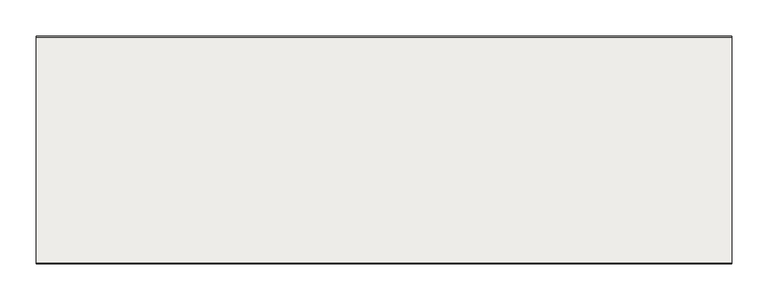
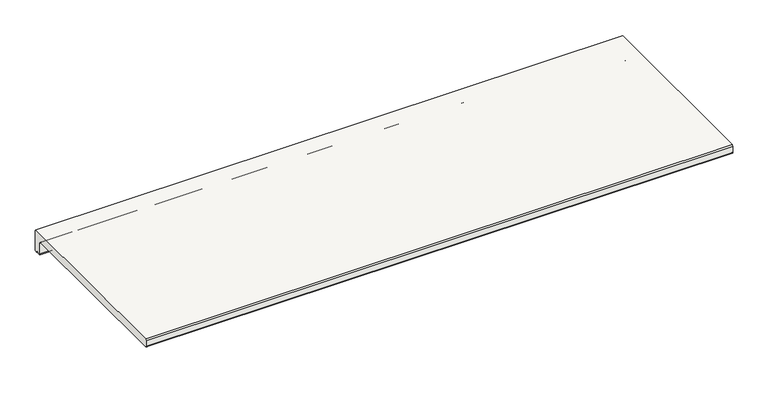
"""IFC4 building model written with IfcOpenShell, lengths in millimetres: slab geometry, ROSA GRES_L62 : Pieza L62_Tresor_Java_Anti-Slip."""

from ifc_helpers import new_model, si_unit, point, frame, frame_2d, origin, place, context, project, spatial, polyline, circle_curve, trimmed, segment, composite_curve, outline, extrude, source, transform, mapped, element, save


def slab_826b4f3d(model_context):
    return source(origin(), model_context, "Body", "SweptSolid", [
        extrude(outline(composite_curve([segment(trimmed(circle_curve(frame_2d((-12.1001991, -35.1001991)), 1.8998009), [point((-12.1001991, -37.0))], [point((-14.0, -35.1001991))], False, "CARTESIAN"), True, "CONTINUOUS"), segment(polyline([(-14.0, -35.1001991), (-14.0, -16.5836242)]), True, "CONTINUOUS"), segment(trimmed(circle_curve(frame_2d((-16.6422322, -16.5836242)), 2.6422322), [point((-14.0, -16.5836242))], [point((-16.6422322, -13.9413919))], True, "CARTESIAN"), True, "CONTINUOUS"), segment(polyline([(-16.6422322, -13.9413919), (-315.5234432, -13.9413919)]), True, "CONTINUOUS"), segment(trimmed(circle_curve(frame_2d((-315.5234432, -12.4648352)), 1.4765568), [point((-315.5234432, -13.9413919))], [point((-317.0, -12.4648352))], False, "CARTESIAN"), True, "CONTINUOUS"), segment(polyline([(-317.0, -12.4648352), (-317.0, -2.5), (-315.5, 0.0), (-2.5, 0.0), (0.0, -2.5), (0.0, -34.5)]), True, "CONTINUOUS"), segment(trimmed(circle_curve(frame_2d((-2.5, -34.5)), 2.5), [point((0.0, -34.5))], [point((-2.5, -37.0))], False, "CARTESIAN"), True, "CONTINUOUS"), segment(polyline([(-2.5, -37.0), (-5.422949, -37.0)]), True, "CONTINUOUS"), segment(trimmed(circle_curve(frame_2d((-7.4142134, -37.0)), 1.9912643), [point((-5.422949, -37.0))], [point((-9.4054777, -37.0))], True, "CARTESIAN"), True, "CONTINUOUS"), segment(polyline([(-9.4054777, -37.0), (-12.1001991, -37.0)]), True, "CONTINUOUS")], self_intersect=False)), frame((0.0, 0.0, 0.0), z_axis=(1.0, 0.0, 0.0), x_axis=(0.0, 1.0, 0.0)), (0.0, 0.0, 1.0), 966.0),
    ])


if __name__ == "__main__":
    model = new_model("IFC4")
    model_context = context("Model", 3, world=origin())
    ifc_project = project(units=[si_unit("LENGTHUNIT", "METRE", prefix="MILLI")], contexts=[model_context])
    site = spatial("IfcSite", under=ifc_project)
    building = spatial("IfcBuilding", under=site)
    placement = place(None, origin())
    slab_shape = slab_826b4f3d(model_context)
    element("IfcSlab", 1, ObjectType="ROSA GRES_L62 : Pieza L62_Tresor_Java_Anti-Slip", at=placement, inside=building, context=model_context, shape_type="MappedRepresentation", body=[
        mapped(slab_shape, transform((0.0, 0.0, 0.0), x_axis=(1.0, 0.0, 0.0), y_axis=(0.0, 1.0, 0.0), z_axis=(0.0, 0.0, 1.0))),
    ])
    save(model, "model.ifc")
